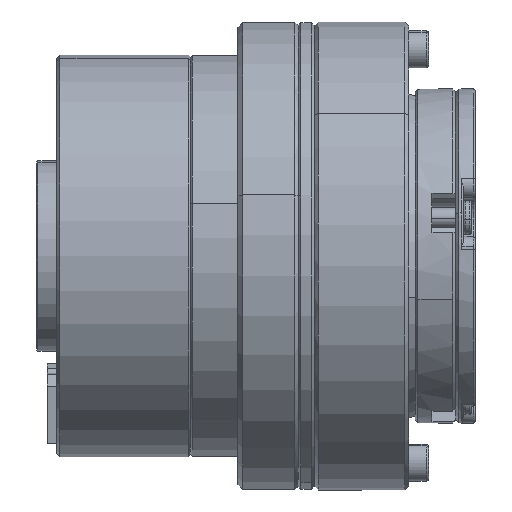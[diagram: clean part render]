
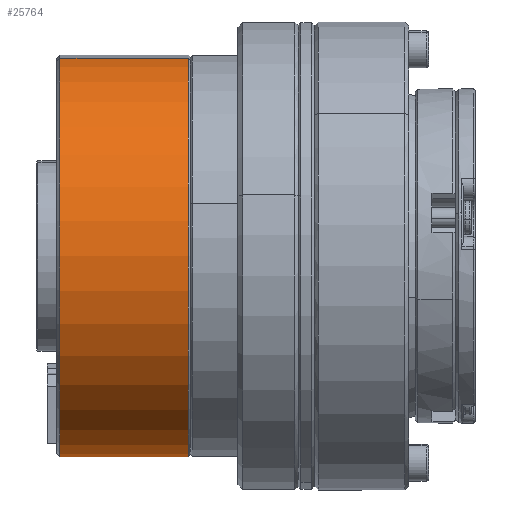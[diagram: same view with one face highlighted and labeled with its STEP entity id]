
A CAD part, top view. The second image highlights one B-rep face of the part: STEP entity #25764.
In plain terms, the highlighted cylindrical face has radius 30 mm (diameter 60 mm), a partial arc.
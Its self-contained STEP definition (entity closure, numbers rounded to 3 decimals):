
#740 = CIRCLE ( 'NONE', #11975, 30. ) ;
#1025 = DIRECTION ( 'NONE',  ( -1., 0., 0. ) ) ;
#1922 = EDGE_CURVE ( 'NONE', #5289, #2699, #28899, .T. ) ;
#2414 = LINE ( 'NONE', #6843, #12580 ) ;
#2699 = VERTEX_POINT ( 'NONE', #20904 ) ;
#5289 = VERTEX_POINT ( 'NONE', #21108 ) ;
#5947 = EDGE_CURVE ( 'NONE', #2699, #10444, #740, .T. ) ;
#6560 = AXIS2_PLACEMENT_3D ( 'NONE', #20102, #1025, #27125 ) ;
#6843 = CARTESIAN_POINT ( 'NONE',  ( -51.1, -29.542, -5.22 ) ) ;
#8595 = ORIENTED_EDGE ( 'NONE', *, *, #13382, .T. ) ;
#8861 = AXIS2_PLACEMENT_3D ( 'NONE', #10105, #28750, #16690 ) ;
#10105 = CARTESIAN_POINT ( 'NONE',  ( -32.9, 0., 0. ) ) ;
#10250 = CARTESIAN_POINT ( 'NONE',  ( -51.1, 29.542, 5.22 ) ) ;
#10444 = VERTEX_POINT ( 'NONE', #13085 ) ;
#10485 = CYLINDRICAL_SURFACE ( 'NONE', #6560, 30. ) ;
#11013 = ORIENTED_EDGE ( 'NONE', *, *, #1922, .T. ) ;
#11786 = VERTEX_POINT ( 'NONE', #25096 ) ;
#11975 = AXIS2_PLACEMENT_3D ( 'NONE', #14674, #12098, #28279 ) ;
#12098 = DIRECTION ( 'NONE',  ( 1., 0., 0. ) ) ;
#12580 = VECTOR ( 'NONE', #14179, 1000. ) ;
#13085 = CARTESIAN_POINT ( 'NONE',  ( -52.1, -29.542, -5.22 ) ) ;
#13382 = EDGE_CURVE ( 'NONE', #11786, #5289, #22066, .T. ) ;
#14179 = DIRECTION ( 'NONE',  ( -1., 0., 0. ) ) ;
#14674 = CARTESIAN_POINT ( 'NONE',  ( -52.1, 0., 0. ) ) ;
#15040 = ORIENTED_EDGE ( 'NONE', *, *, #25329, .F. ) ;
#16281 = ORIENTED_EDGE ( 'NONE', *, *, #5947, .T. ) ;
#16690 = DIRECTION ( 'NONE',  ( 0., -0.985, -0.174 ) ) ;
#17374 = FACE_OUTER_BOUND ( 'NONE', #25709, .T. ) ;
#20102 = CARTESIAN_POINT ( 'NONE',  ( -51.1, 0., 0. ) ) ;
#20904 = CARTESIAN_POINT ( 'NONE',  ( -52.1, 29.542, 5.22 ) ) ;
#21108 = CARTESIAN_POINT ( 'NONE',  ( -32.9, 29.542, 5.22 ) ) ;
#22066 = CIRCLE ( 'NONE', #8861, 30. ) ;
#25091 = VECTOR ( 'NONE', #29511, 1000. ) ;
#25096 = CARTESIAN_POINT ( 'NONE',  ( -32.9, -29.542, -5.22 ) ) ;
#25329 = EDGE_CURVE ( 'NONE', #11786, #10444, #2414, .T. ) ;
#25709 = EDGE_LOOP ( 'NONE', ( #15040, #8595, #11013, #16281 ) ) ;
#25764 = ADVANCED_FACE ( 'NONE', ( #17374 ), #10485, .T. ) ;
#27125 = DIRECTION ( 'NONE',  ( 0., 0.985, 0.174 ) ) ;
#28279 = DIRECTION ( 'NONE',  ( 0., -0.985, -0.174 ) ) ;
#28750 = DIRECTION ( 'NONE',  ( -1., 0., 0. ) ) ;
#28899 = LINE ( 'NONE', #10250, #25091 ) ;
#29511 = DIRECTION ( 'NONE',  ( -1., 0., 0. ) ) ;
